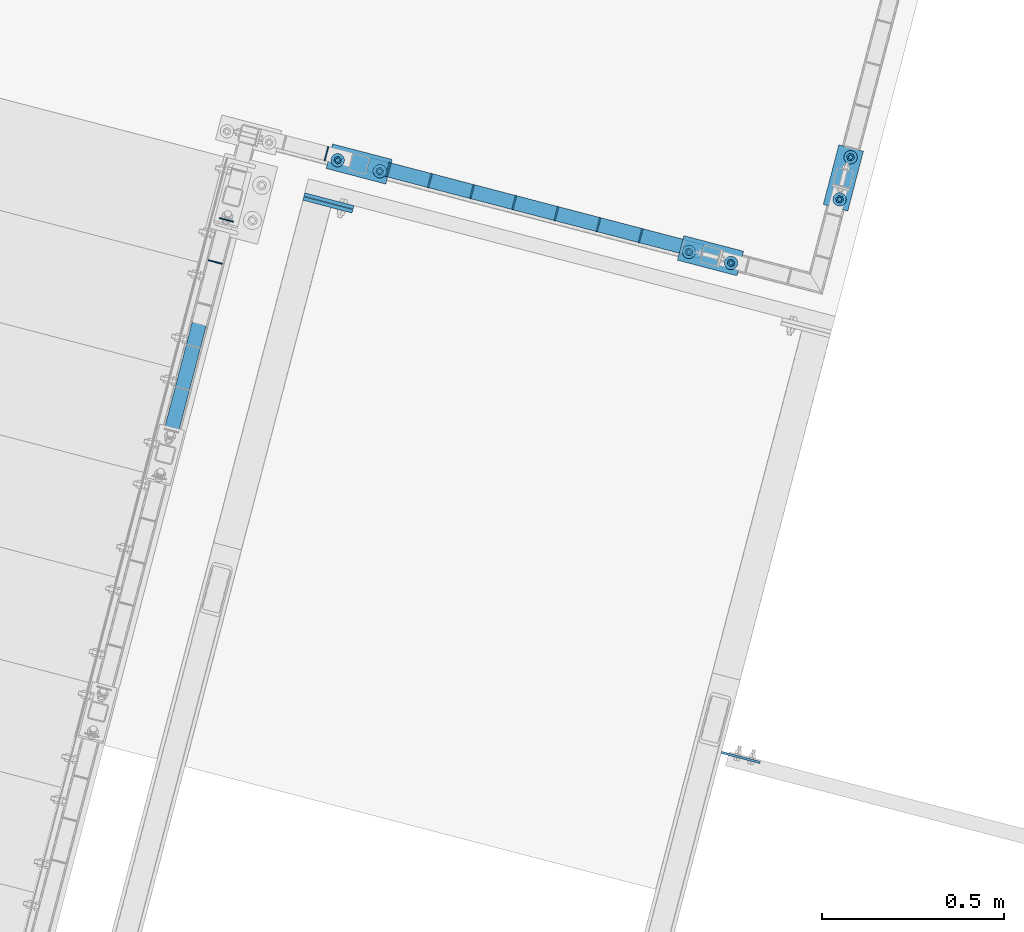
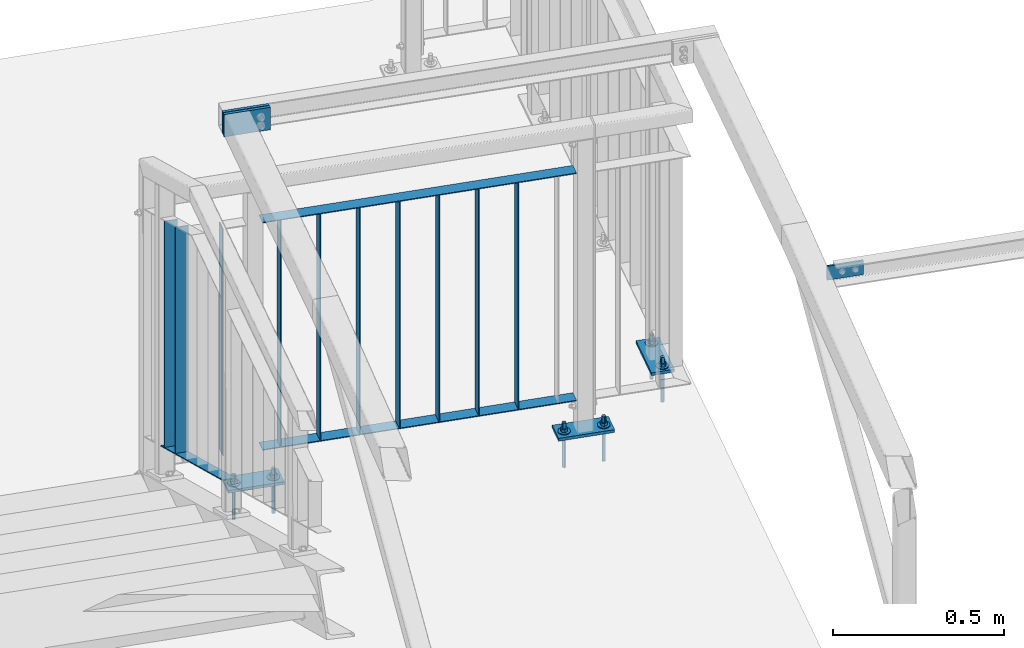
# One storey, part 95 of 169: 19 discrete accessories, 3 mechanical fasteners, 5 elements without a shape of their own.
"""IFC2X3 building model written with IfcOpenShell, lengths in millimetres."""

from ifc_helpers import new_model, si_unit, frame, frame_2d, origin_with_axes, origin_2d_with_axis, place, context, subcontext, project, spatial, polyline, circle_curve, parameter, trimmed, segment, composite_curve, rectangle, circle, outline, extrude, boolean, clip, halfspace, source, transform, mapped, material, type_object, element, aggregate, save


model = new_model("IFC2X3")

# Units and contexts
model_context = context("Model", 3, precision=1e-05, world=origin_with_axes())
body_context = subcontext(model_context, "Body", "Model", "MODEL_VIEW")
ifc_project = project(units=[si_unit("LENGTHUNIT", "METRE", prefix="MILLI"), si_unit("AREAUNIT", "SQUARE_METRE"), si_unit("VOLUMEUNIT", "CUBIC_METRE"), si_unit("MASSUNIT", "GRAM", prefix="KILO"), si_unit("TIMEUNIT", "SECOND"), si_unit("PLANEANGLEUNIT", "RADIAN"), si_unit("SOLIDANGLEUNIT", "STERADIAN"), si_unit("THERMODYNAMICTEMPERATUREUNIT", "DEGREE_CELSIUS"), si_unit("LUMINOUSINTENSITYUNIT", "LUMEN")], contexts=[model_context])

# Site, building, storey
site_placement = place(None, origin_with_axes())
site = spatial("IfcSite", under=ifc_project, at=site_placement, Name="Undefined", CompositionType="ELEMENT")
building_placement = place(site_placement, origin_with_axes())
building = spatial("IfcBuilding", under=site, at=building_placement, Name="Undefined", CompositionType="ELEMENT")
storey_placement = place(building_placement, origin_with_axes())
storey = spatial("IfcBuildingStorey", under=building, at=storey_placement, Name="Undefined", CompositionType="ELEMENT", Elevation=0.0)

# Assembly, discrete accessories
assembly_1_placement = place(storey_placement, origin_with_axes())
assembly_1 = element("IfcElementAssembly", 1, at=assembly_1_placement, inside=storey, Name="Steel Assembly", AssemblyPlace="NOTDEFINED", PredefinedType="RIGID_FRAME")
ifc_material_1 = material(Name="STEEL/S235")
discrete_accessory_type_1 = type_object("IfcDiscreteAccessoryType", Name="BLACHA")
discrete_accessory_1_placement = place(assembly_1_placement, frame((-8320.9615768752, 20890.1371942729, 12570.4183764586), z_axis=(0.0, 0.0, 1.0), x_axis=(-0.252628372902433, -0.967563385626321, 0.0)))
discrete_accessory_1 = element("IfcDiscreteAccessory", 2, at=discrete_accessory_1_placement, type_object=discrete_accessory_type_1, material=ifc_material_1, Name="BLACHA", ObjectType="BL10*170", context=body_context, shape_type="SweptSolid", body=[
    extrude(outline(polyline([(70.0000000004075, -84.9999999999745), (-5.82076609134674e-11, -84.99999999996), (5.82076609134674e-11, 84.99999999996), (70.0000000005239, 84.9999999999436), (70.0000000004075, -84.9999999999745)])), frame((-1.81898926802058e-12, -1.18000176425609e-16, -5.00000000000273), z_axis=(0.0, 0.0, 1.0), x_axis=(1.0, 0.0, 0.0)), (0.0, 0.0, 1.0), 10.0),
])
discrete_accessory_2_placement = place(assembly_1_placement, frame((-7030.04737522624, 20826.9665998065, 12570.4183763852), z_axis=(0.0, 0.0, 1.0), x_axis=(0.967563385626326, -0.252628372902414, 0.0)))
discrete_accessory_2 = element("IfcDiscreteAccessory", 3, at=discrete_accessory_2_placement, type_object=discrete_accessory_type_1, material=ifc_material_1, Name="BLACHA", ObjectType="BL10*170", context=body_context, shape_type="SweptSolid", body=[
    extrude(outline(polyline([(-5.82076609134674e-11, -84.99999999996), (5.82076609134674e-11, 84.99999999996), (70.0000000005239, 84.9999999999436), (70.0000000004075, -84.9999999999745), (-5.82076609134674e-11, -84.99999999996)])), frame((-1.81898926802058e-12, -1.18000176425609e-16, -5.00000000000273), z_axis=(0.0, 0.0, 1.0), x_axis=(1.0, 0.0, 0.0)), (0.0, 0.0, 1.0), 10.0),
])
discrete_accessory_3_placement = place(assembly_1_placement, frame((-7353.39819124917, 20637.5088213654, 12570.4183764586), z_axis=(0.0, 0.0, 1.0), x_axis=(-0.252628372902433, -0.967563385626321, 0.0)))
discrete_accessory_3 = element("IfcDiscreteAccessory", 4, at=discrete_accessory_3_placement, type_object=discrete_accessory_type_1, material=ifc_material_1, Name="BLACHA", ObjectType="BL10*170", context=body_context, shape_type="SweptSolid", body=[
    extrude(outline(polyline([(70.0000000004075, -84.9999999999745), (-5.82076609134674e-11, -84.99999999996), (5.82076609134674e-11, 84.99999999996), (70.0000000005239, 84.9999999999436), (70.0000000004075, -84.9999999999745)])), frame((-1.81898926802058e-12, -1.18000176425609e-16, -5.00000000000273), z_axis=(0.0, 0.0, 1.0), x_axis=(1.0, 0.0, 0.0)), (0.0, 0.0, 1.0), 10.0),
])

# Assembly, discrete accessory
assembly_2_placement = place(storey_placement, origin_with_axes())
assembly_2 = element("IfcElementAssembly", 5, at=assembly_2_placement, inside=storey, Name="Steel Assembly", AssemblyPlace="NOTDEFINED", PredefinedType="RIGID_FRAME")
ifc_material_2 = material(Name="STEEL/S355")
discrete_accessory_4_placement = place(assembly_2_placement, frame((-7278.67406887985, 19221.5871407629, 13970.4856092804), z_axis=(-0.252628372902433, -0.967563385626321, 0.0), x_axis=(-2.54700353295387e-10, 0.0, -1.0)))
discrete_accessory_4 = element("IfcDiscreteAccessory", 6, at=discrete_accessory_4_placement, type_object=discrete_accessory_type_1, material=ifc_material_2, Name="BLACHA", ObjectType="BL110X6", context=body_context, shape_type="SweptSolid", body=[
    extrude(outline(polyline([(50.00000000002, -54.9999999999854), (2.00088834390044e-11, -54.9999999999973), (-2.00088834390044e-11, 54.9999999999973), (49.9999999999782, 55.0000000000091), (50.00000000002, -54.9999999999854)])), frame((4.06575814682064e-20, 9.09383216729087e-13, -3.0), z_axis=(0.0, 0.0, 1.0), x_axis=(1.0, 0.0, 0.0)), (0.0, 0.0, 1.0), 6.0),
])
aggregate(assembly_2, [discrete_accessory_4])

assembly_3_placement = place(storey_placement, origin_with_axes())
assembly_3 = element("IfcElementAssembly", 7, at=assembly_3_placement, inside=storey, Name="Steel Assembly", AssemblyPlace="NOTDEFINED", PredefinedType="RIGID_FRAME")
discrete_accessory_5_placement = place(assembly_3_placement, frame((-8416.03372334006, 20743.7137753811, 13990.4176077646), z_axis=(-0.252628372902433, -0.967563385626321, 0.0), x_axis=(-2.54700353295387e-10, 0.0, -1.0)))
discrete_accessory_5 = element("IfcDiscreteAccessory", 8, at=discrete_accessory_5_placement, type_object=discrete_accessory_type_1, material=ifc_material_1, Name="BLACHA", ObjectType="BL10*140", context=body_context, shape_type="SweptSolid", body=[
    extrude(outline(polyline([(79.9999999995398, -70.00000000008), (-1.4915713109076e-10, -69.9999999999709), (1.4915713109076e-10, 69.9999999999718), (79.9999999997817, 69.999999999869), (79.9999999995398, -70.00000000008)])), frame((-1.81898926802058e-12, -1.18000176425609e-16, -5.00000000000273), z_axis=(0.0, 0.0, 1.0), x_axis=(1.0, 0.0, 0.0)), (0.0, 0.0, 1.0), 10.0),
])
aggregate(assembly_3, [discrete_accessory_5])

assembly_4_placement = place(storey_placement, origin_with_axes())
assembly_4 = element("IfcElementAssembly", 9, at=assembly_4_placement, inside=storey, Name="Steel Assembly", AssemblyPlace="NOTDEFINED", PredefinedType="RIGID_FRAME")
discrete_accessory_6_placement = place(assembly_4_placement, frame((-8413.25481123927, 20754.3569726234, 13990.4176077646), z_axis=(-0.252628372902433, -0.967563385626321, 0.0), x_axis=(-2.54700353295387e-10, 0.0, -1.0)))
discrete_accessory_6 = element("IfcDiscreteAccessory", 10, at=discrete_accessory_6_placement, type_object=discrete_accessory_type_1, material=ifc_material_1, Name="BLACHA", ObjectType="BL10*140", context=body_context, shape_type="SweptSolid", body=[
    extrude(outline(polyline([(79.9999999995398, -70.00000000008), (-1.4915713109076e-10, -69.9999999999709), (1.4915713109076e-10, 69.9999999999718), (79.9999999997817, 69.999999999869), (79.9999999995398, -70.00000000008)])), frame((-1.81898926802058e-12, -1.18000176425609e-16, -5.00000000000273), z_axis=(0.0, 0.0, 1.0), x_axis=(1.0, 0.0, 0.0)), (0.0, 0.0, 1.0), 10.0),
])
aggregate(assembly_4, [discrete_accessory_6])

# Discrete accessory
discrete_accessory_type_2 = type_object("IfcDiscreteAccessoryType", Name="PORĘCZ")
discrete_accessory_7_placement = place(assembly_1_placement, frame((-8419.97400294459, 20884.9881362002, 13640.4183763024), z_axis=(0.967563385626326, -0.252628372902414, 0.0), x_axis=(-2.54700353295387e-10, 0.0, -1.0)))
discrete_accessory_7 = element("IfcDiscreteAccessory", 11, at=discrete_accessory_7_placement, type_object=discrete_accessory_type_2, material=ifc_material_1, Name="PORĘCZ", ObjectType="BL40*3", context=body_context, shape_type="Clipping", body=[
    clip(clip(clip(extrude(outline(polyline([(953.5, -20.0000000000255), (146.5, -20.0000000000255), (146.5, 20.0000000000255), (953.5, 20.0000000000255), (953.5, -20.0000000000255)])), frame((1.81898940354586e-12, -1.77635442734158e-15, -1.50000000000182), z_axis=(0.0, 0.0, 1.0), x_axis=(1.0, 0.0, 0.0)), (0.0, 0.0, 1.0), 3.0), halfspace(frame((146.5, 1000.00000000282, -1.78988557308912e-09), z_axis=(1.0, 0.0, 0.0), x_axis=(-2.54700353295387e-10, 0.0, -1.0)), True)), halfspace(frame((24.9999999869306, 1000.00000000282, -1.78988557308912e-09), z_axis=(1.0, 0.0, 0.0), x_axis=(-2.54700353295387e-10, 0.0, -1.0)), True)), halfspace(frame((953.5, 999.999999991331, -2.08819983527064e-09), z_axis=(-1.0, -3.46944695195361e-18, -1.38777878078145e-17), x_axis=(0.0, 0.0, 1.0)), True)),
])

discrete_accessory_8_placement = place(assembly_1_placement, frame((-8251.13419214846, 20840.904485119, 13640.4183763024), z_axis=(0.967563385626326, -0.252628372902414, 0.0), x_axis=(-2.54700353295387e-10, 0.0, -1.0)))
discrete_accessory_8 = element("IfcDiscreteAccessory", 12, at=discrete_accessory_8_placement, type_object=discrete_accessory_type_2, material=ifc_material_1, Name="PORĘCZ", ObjectType="BL40*3", context=body_context, shape_type="Clipping", body=[
    clip(clip(clip(extrude(outline(polyline([(953.5, -20.0000000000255), (146.5, -20.0000000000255), (146.5, 20.0000000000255), (953.5, 20.0000000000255), (953.5, -20.0000000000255)])), frame((1.81898940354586e-12, -1.77635442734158e-15, -1.50000000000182), z_axis=(0.0, 0.0, 1.0), x_axis=(1.0, 0.0, 0.0)), (0.0, 0.0, 1.0), 3.0), halfspace(frame((146.5, 1000.00000000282, -1.78988557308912e-09), z_axis=(1.0, 0.0, 0.0), x_axis=(-2.54700353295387e-10, 0.0, -1.0)), True)), halfspace(frame((24.9999999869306, 1000.00000000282, -1.78988557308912e-09), z_axis=(1.0, 0.0, 0.0), x_axis=(-2.54700353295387e-10, 0.0, -1.0)), True)), halfspace(frame((953.5, 999.999999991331, -2.08819983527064e-09), z_axis=(-1.0, -3.46944695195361e-18, -1.38777878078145e-17), x_axis=(0.0, 0.0, 1.0)), True)),
])

discrete_accessory_9_placement = place(assembly_1_placement, frame((-8135.02658587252, 20810.5890803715, 13640.4183763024), z_axis=(0.967563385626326, -0.252628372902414, 0.0), x_axis=(-2.54700353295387e-10, 0.0, -1.0)))
discrete_accessory_9 = element("IfcDiscreteAccessory", 13, at=discrete_accessory_9_placement, type_object=discrete_accessory_type_2, material=ifc_material_1, Name="PORĘCZ", ObjectType="BL40*3", context=body_context, shape_type="Clipping", body=[
    clip(clip(clip(extrude(outline(polyline([(953.5, -20.0000000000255), (146.5, -20.0000000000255), (146.5, 20.0000000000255), (953.5, 20.0000000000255), (953.5, -20.0000000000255)])), frame((1.81898940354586e-12, -1.77635442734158e-15, -1.50000000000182), z_axis=(0.0, 0.0, 1.0), x_axis=(1.0, 0.0, 0.0)), (0.0, 0.0, 1.0), 3.0), halfspace(frame((146.5, 1000.00000000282, -1.78988557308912e-09), z_axis=(1.0, 0.0, 0.0), x_axis=(-2.54700353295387e-10, 0.0, -1.0)), True)), halfspace(frame((24.9999999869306, 1000.00000000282, -1.78988557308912e-09), z_axis=(1.0, 0.0, 0.0), x_axis=(-2.54700353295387e-10, 0.0, -1.0)), True)), halfspace(frame((953.5, 999.999999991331, -2.08819983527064e-09), z_axis=(-1.0, -3.46944695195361e-18, -1.38777878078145e-17), x_axis=(0.0, 0.0, 1.0)), True)),
])

discrete_accessory_10_placement = place(assembly_1_placement, frame((-8018.91897959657, 20780.2736756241, 13640.4183763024), z_axis=(0.967563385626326, -0.252628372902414, 0.0), x_axis=(-2.54700353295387e-10, 0.0, -1.0)))
discrete_accessory_10 = element("IfcDiscreteAccessory", 14, at=discrete_accessory_10_placement, type_object=discrete_accessory_type_2, material=ifc_material_1, Name="PORĘCZ", ObjectType="BL40*3", context=body_context, shape_type="Clipping", body=[
    clip(clip(clip(extrude(outline(polyline([(953.5, -20.0000000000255), (146.5, -20.0000000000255), (146.5, 20.0000000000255), (953.5, 20.0000000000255), (953.5, -20.0000000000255)])), frame((1.81898940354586e-12, -1.77635442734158e-15, -1.50000000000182), z_axis=(0.0, 0.0, 1.0), x_axis=(1.0, 0.0, 0.0)), (0.0, 0.0, 1.0), 3.0), halfspace(frame((146.5, 1000.00000000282, -1.78988557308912e-09), z_axis=(1.0, 0.0, 0.0), x_axis=(-2.54700353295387e-10, 0.0, -1.0)), True)), halfspace(frame((24.9999999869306, 1000.00000000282, -1.78988557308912e-09), z_axis=(1.0, 0.0, 0.0), x_axis=(-2.54700353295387e-10, 0.0, -1.0)), True)), halfspace(frame((953.5, 999.999999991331, -2.08819983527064e-09), z_axis=(-1.0, -3.46944695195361e-18, -1.38777878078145e-17), x_axis=(0.0, 0.0, 1.0)), True)),
])

discrete_accessory_11_placement = place(assembly_1_placement, frame((-7970.05702862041, 20767.5159427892, 13495.4183763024), z_axis=(0.0, 0.0, 1.0), x_axis=(0.967563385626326, -0.252628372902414, 0.0)))
discrete_accessory_11 = element("IfcDiscreteAccessory", 15, at=discrete_accessory_11_placement, type_object=discrete_accessory_type_2, material=ifc_material_1, Name="PORĘCZ", ObjectType="BL40*3", context=body_context, shape_type="CSG", body=[
    boolean("DIFFERENCE", boolean("DIFFERENCE", extrude(outline(polyline([(-345.499999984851, -20.0000000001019), (-345.499999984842, 19.9999999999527), (604.500000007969, 20.0000000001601), (604.50000000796, -19.9999999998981), (-345.499999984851, -20.0000000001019)])), frame((1.81898940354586e-12, -1.77635442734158e-15, -1.50000000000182), z_axis=(0.0, 0.0, 1.0), x_axis=(1.0, 0.0, 0.0)), (0.0, 0.0, 1.0), 3.0), extrude(rectangle(XDim=51.0, YDim=51.0, at=origin_2d_with_axis()), frame((630.000000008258, 6.38465280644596e-09, 139.999999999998), z_axis=(-2.54700353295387e-10, 0.0, -1.0), x_axis=(-1.0, -3.46944695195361e-18, -1.38777878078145e-17)), (0.0, 0.0, 1.0), 280.0)), halfspace(frame((-345.499999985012, 1000.00000000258, -1.81898940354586e-12), z_axis=(1.0, 0.0, 0.0), x_axis=(-2.54700353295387e-10, 0.0, -1.0)), True)),
])

discrete_accessory_12_placement = place(assembly_1_placement, frame((-7902.81137332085, 20749.9582708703, 13640.4183763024), z_axis=(0.967563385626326, -0.252628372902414, 0.0), x_axis=(-2.54700353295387e-10, 0.0, -1.0)))
discrete_accessory_12 = element("IfcDiscreteAccessory", 16, at=discrete_accessory_12_placement, type_object=discrete_accessory_type_2, material=ifc_material_1, Name="PORĘCZ", ObjectType="BL40*3", context=body_context, shape_type="Clipping", body=[
    clip(clip(clip(extrude(outline(polyline([(953.5, -20.0000000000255), (146.5, -20.0000000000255), (146.5, 20.0000000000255), (953.5, 20.0000000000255), (953.5, -20.0000000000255)])), frame((1.81898940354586e-12, -1.77635442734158e-15, -1.50000000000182), z_axis=(0.0, 0.0, 1.0), x_axis=(1.0, 0.0, 0.0)), (0.0, 0.0, 1.0), 3.0), halfspace(frame((146.5, 1000.00000000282, -1.78988557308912e-09), z_axis=(1.0, 0.0, 0.0), x_axis=(-2.54700353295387e-10, 0.0, -1.0)), True)), halfspace(frame((24.9999999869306, 1000.00000000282, -1.78988557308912e-09), z_axis=(1.0, 0.0, 0.0), x_axis=(-2.54700353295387e-10, 0.0, -1.0)), True)), halfspace(frame((953.5, 999.999999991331, -2.08819983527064e-09), z_axis=(-1.0, -3.46944695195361e-18, -1.38777878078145e-17), x_axis=(0.0, 0.0, 1.0)), True)),
])

discrete_accessory_13_placement = place(assembly_1_placement, frame((-7786.70376704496, 20719.642866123, 13640.4183763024), z_axis=(0.967563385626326, -0.252628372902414, 0.0), x_axis=(-2.54700353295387e-10, 0.0, -1.0)))
discrete_accessory_13 = element("IfcDiscreteAccessory", 17, at=discrete_accessory_13_placement, type_object=discrete_accessory_type_2, material=ifc_material_1, Name="PORĘCZ", ObjectType="BL40*3", context=body_context, shape_type="Clipping", body=[
    clip(clip(clip(extrude(outline(polyline([(953.5, -20.0000000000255), (146.5, -20.0000000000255), (146.5, 20.0000000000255), (953.5, 20.0000000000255), (953.5, -20.0000000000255)])), frame((1.81898940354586e-12, -1.77635442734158e-15, -1.50000000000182), z_axis=(0.0, 0.0, 1.0), x_axis=(1.0, 0.0, 0.0)), (0.0, 0.0, 1.0), 3.0), halfspace(frame((146.5, 1000.00000000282, -1.78988557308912e-09), z_axis=(1.0, 0.0, 0.0), x_axis=(-2.54700353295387e-10, 0.0, -1.0)), True)), halfspace(frame((24.9999999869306, 1000.00000000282, -1.78988557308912e-09), z_axis=(1.0, 0.0, 0.0), x_axis=(-2.54700353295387e-10, 0.0, -1.0)), True)), halfspace(frame((953.5, 999.999999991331, -2.08819983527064e-09), z_axis=(-1.0, -3.46944695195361e-18, -1.38777878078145e-17), x_axis=(0.0, 0.0, 1.0)), True)),
])

discrete_accessory_14_placement = place(assembly_1_placement, frame((-7670.59616076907, 20689.3274613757, 13640.4183763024), z_axis=(0.967563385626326, -0.252628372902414, 0.0), x_axis=(-2.54700353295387e-10, 0.0, -1.0)))
discrete_accessory_14 = element("IfcDiscreteAccessory", 18, at=discrete_accessory_14_placement, type_object=discrete_accessory_type_2, material=ifc_material_1, Name="PORĘCZ", ObjectType="BL40*3", context=body_context, shape_type="Clipping", body=[
    clip(clip(clip(extrude(outline(polyline([(953.5, -20.0000000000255), (146.5, -20.0000000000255), (146.5, 20.0000000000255), (953.5, 20.0000000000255), (953.5, -20.0000000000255)])), frame((1.81898940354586e-12, -1.77635442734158e-15, -1.50000000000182), z_axis=(0.0, 0.0, 1.0), x_axis=(1.0, 0.0, 0.0)), (0.0, 0.0, 1.0), 3.0), halfspace(frame((146.5, 1000.00000000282, -1.78988557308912e-09), z_axis=(1.0, 0.0, 0.0), x_axis=(-2.54700353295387e-10, 0.0, -1.0)), True)), halfspace(frame((24.9999999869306, 1000.00000000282, -1.78988557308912e-09), z_axis=(1.0, 0.0, 0.0), x_axis=(-2.54700353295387e-10, 0.0, -1.0)), True)), halfspace(frame((953.5, 999.999999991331, -2.08819983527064e-09), z_axis=(-1.0, -3.46944695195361e-18, -1.38777878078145e-17), x_axis=(0.0, 0.0, 1.0)), True)),
])

discrete_accessory_15_placement = place(assembly_1_placement, frame((-7554.48855449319, 20659.0120566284, 13640.4183763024), z_axis=(0.967563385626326, -0.252628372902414, 0.0), x_axis=(-2.54700353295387e-10, 0.0, -1.0)))
discrete_accessory_15 = element("IfcDiscreteAccessory", 19, at=discrete_accessory_15_placement, type_object=discrete_accessory_type_2, material=ifc_material_1, Name="PORĘCZ", ObjectType="BL40*3", context=body_context, shape_type="Clipping", body=[
    clip(clip(clip(extrude(outline(polyline([(953.5, -20.0000000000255), (146.5, -20.0000000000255), (146.5, 20.0000000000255), (953.5, 20.0000000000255), (953.5, -20.0000000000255)])), frame((1.81898940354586e-12, -1.77635442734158e-15, -1.50000000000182), z_axis=(0.0, 0.0, 1.0), x_axis=(1.0, 0.0, 0.0)), (0.0, 0.0, 1.0), 3.0), halfspace(frame((146.5, 1000.00000000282, -1.78988557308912e-09), z_axis=(1.0, 0.0, 0.0), x_axis=(-2.54700353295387e-10, 0.0, -1.0)), True)), halfspace(frame((24.9999999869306, 1000.00000000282, -1.78988557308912e-09), z_axis=(1.0, 0.0, 0.0), x_axis=(-2.54700353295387e-10, 0.0, -1.0)), True)), halfspace(frame((953.5, 999.999999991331, -2.08819983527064e-09), z_axis=(-1.0, -3.46944695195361e-18, -1.38777878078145e-17), x_axis=(0.0, 0.0, 1.0)), True)),
])

discrete_accessory_16_placement = place(assembly_1_placement, frame((-7970.05702863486, 20767.5159427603, 12685.4183763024), z_axis=(0.0, 0.0, 1.0), x_axis=(0.967563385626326, -0.252628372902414, 0.0)))
discrete_accessory_16 = element("IfcDiscreteAccessory", 20, at=discrete_accessory_16_placement, type_object=discrete_accessory_type_2, material=ifc_material_1, Name="PORĘCZ", ObjectType="BL40*3", context=body_context, shape_type="CSG", body=[
    boolean("DIFFERENCE", boolean("DIFFERENCE", extrude(outline(polyline([(-345.499999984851, -20.0000000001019), (-345.499999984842, 19.9999999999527), (604.500000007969, 20.0000000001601), (604.50000000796, -19.9999999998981), (-345.499999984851, -20.0000000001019)])), frame((1.81898940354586e-12, -1.77635442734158e-15, -1.50000000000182), z_axis=(0.0, 0.0, 1.0), x_axis=(1.0, 0.0, 0.0)), (0.0, 0.0, 1.0), 3.0), extrude(rectangle(XDim=51.0, YDim=51.0, at=origin_2d_with_axis()), frame((630.000000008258, 6.38465280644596e-09, 139.999999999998), z_axis=(-2.54700353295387e-10, 0.0, -1.0), x_axis=(-1.0, -3.46944695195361e-18, -1.38777878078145e-17)), (0.0, 0.0, 1.0), 280.0)), halfspace(frame((-345.499999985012, 1000.00000000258, -1.81898940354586e-12), z_axis=(1.0, 0.0, 0.0), x_axis=(-2.54700353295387e-10, 0.0, -1.0)), True)),
])

# Assembly, discrete accessories
assembly_5_placement = place(storey_placement, origin_with_axes())
assembly_5 = element("IfcElementAssembly", 21, at=assembly_5_placement, inside=storey, Name="Steel Assembly", AssemblyPlace="NOTDEFINED", PredefinedType="RIGID_FRAME")
discrete_accessory_17_placement = place(assembly_5_placement, frame((-8725.95450736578, 20586.2353031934, 13927.6347790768), z_axis=(-0.252628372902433, -0.967563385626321, 0.0), x_axis=(-2.54700353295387e-10, 0.0, -1.0)))
discrete_accessory_17 = element("IfcDiscreteAccessory", 22, at=discrete_accessory_17_placement, type_object=discrete_accessory_type_2, material=ifc_material_1, Name="PORĘCZ", ObjectType="BL40*3", context=body_context, shape_type="Clipping", body=[
    clip(clip(clip(extrude(outline(polyline([(953.326238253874, -19.9999999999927), (146.673761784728, -19.9999999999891), (146.67376178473, 19.9999999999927), (953.326238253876, 19.9999999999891), (953.326238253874, -19.9999999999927)])), frame((1.81898940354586e-12, -1.77635442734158e-15, -1.50000000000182), z_axis=(0.0, 0.0, 1.0), x_axis=(1.0, 0.0, 0.0)), (0.0, 0.0, 1.0), 3.0), halfspace(frame((146.34427734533, 999.999999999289, 0.66552116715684), z_axis=(0.89618489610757, -8.07050632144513e-16, 0.443680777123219), x_axis=(0.443680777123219, -6.25441316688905e-11, -0.89618489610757)), True)), halfspace(frame((146.34427734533, 999.999999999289, 0.66552116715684), z_axis=(0.89618489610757, -8.07050632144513e-16, 0.443680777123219), x_axis=(0.443680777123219, -6.25441316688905e-11, -0.89618489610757)), True)), halfspace(frame((953.655722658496, 999.999999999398, -0.665521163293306), z_axis=(-0.89618489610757, 8.07050632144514e-16, -0.443680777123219), x_axis=(-0.443680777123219, 6.25441316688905e-11, 0.89618489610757)), True)),
])
discrete_accessory_18_placement = place(assembly_5_placement, frame((-8695.63910261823, 20702.3429094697, 13868.2255059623), z_axis=(-0.252628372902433, -0.967563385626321, 0.0), x_axis=(-2.54700353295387e-10, 0.0, -1.0)))
discrete_accessory_18 = element("IfcDiscreteAccessory", 23, at=discrete_accessory_18_placement, type_object=discrete_accessory_type_2, material=ifc_material_1, Name="PORĘCZ", ObjectType="BL40*3", context=body_context, shape_type="Clipping", body=[
    clip(clip(clip(extrude(outline(polyline([(953.326238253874, -19.9999999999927), (146.673761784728, -19.9999999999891), (146.67376178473, 19.9999999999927), (953.326238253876, 19.9999999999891), (953.326238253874, -19.9999999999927)])), frame((1.81898940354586e-12, -1.77635442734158e-15, -1.50000000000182), z_axis=(0.0, 0.0, 1.0), x_axis=(1.0, 0.0, 0.0)), (0.0, 0.0, 1.0), 3.0), halfspace(frame((146.34427734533, 999.999999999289, 0.66552116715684), z_axis=(0.89618489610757, -8.07050632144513e-16, 0.443680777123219), x_axis=(0.443680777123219, -6.25441316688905e-11, -0.89618489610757)), True)), halfspace(frame((146.34427734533, 999.999999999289, 0.66552116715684), z_axis=(0.89618489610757, -8.07050632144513e-16, 0.443680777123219), x_axis=(0.443680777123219, -6.25441316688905e-11, -0.89618489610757)), True)), halfspace(frame((953.655722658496, 999.999999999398, -0.665521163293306), z_axis=(-0.89618489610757, 8.07050632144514e-16, -0.443680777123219), x_axis=(-0.443680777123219, 6.25441316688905e-11, 0.89618489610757)), True)),
])
discrete_accessory_19_placement = place(assembly_5_placement, frame((-8864.05764403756, 20057.3020842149, 13243.2762906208), z_axis=(0.967563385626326, -0.252628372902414, 0.0), x_axis=(0.226401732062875, 0.867115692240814, -0.443680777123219)))
discrete_accessory_19 = element("IfcDiscreteAccessory", 24, at=discrete_accessory_19_placement, type_object=discrete_accessory_type_2, material=ifc_material_1, Name="PORĘCZ", ObjectType="BL40*3", context=body_context, shape_type="CSG", body=[
    boolean("DIFFERENCE", boolean("DIFFERENCE", boolean("DIFFERENCE", boolean("DIFFERENCE", extrude(rectangle(XDim=3.0, YDim=40.0, at=origin_2d_with_axis()), frame((808.457163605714, -3.63797880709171e-12, 8.88739387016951e-15), z_axis=(-1.0, -3.46944695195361e-18, -1.38777878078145e-17), x_axis=(1.73472347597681e-18, -1.0, 0.0)), (0.0, 0.0, 1.0), 798.63), extrude(rectangle(XDim=51.0, YDim=51.0, at=origin_2d_with_axis()), frame((-62.1153087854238, 125.465885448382, -3.44399542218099e-09), z_axis=(0.44368077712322, -0.89618489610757, 2.77484007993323e-11), x_axis=(0.896184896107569, 0.443680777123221, 5.60551815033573e-11)), (0.0, 0.0, 1.0), 280.0)), extrude(rectangle(XDim=51.0, YDim=51.0, at=origin_2d_with_axis()), frame((761.656317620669, 114.373866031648, 4.59358767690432e-08), z_axis=(0.44368077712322, -0.89618489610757, 2.77484007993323e-11), x_axis=(0.896184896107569, 0.443680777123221, 5.60551815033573e-11)), (0.0, 0.0, 1.0), 280.0)), halfspace(frame((795.87559720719, -11.0920194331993, 999.999999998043), z_axis=(-0.896184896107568, -0.443680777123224, -5.60462156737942e-11), x_axis=(0.44368077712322, -0.89618489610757, 2.77484007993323e-11)), True)), halfspace(frame((22.4046223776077, 11.0920194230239, 1000.00000000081), z_axis=(0.896184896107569, 0.443680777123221, 5.60551815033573e-11), x_axis=(-0.443680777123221, 0.896184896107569, -2.77505023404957e-11)), True)),
])
aggregate(assembly_5, [discrete_accessory_17, discrete_accessory_18, discrete_accessory_19])

# Mechanical fastener
ifc_material_3 = material(Name="Undefined")
discrete_accessory_type_3 = type_object("IfcDiscreteAccessoryType", Name="Bolt assembly")
shared_shape_1 = source(origin_with_axes(), body_context, "Body", "SweptSolid", [
    extrude(outline(composite_curve([segment(polyline([(-7.5, 8.5), (7.5, 8.5)]), True, "CONTINUOUS"), segment(trimmed(circle_curve(frame_2d((7.5, 0.0), x_axis=(0.0, 1.0)), 8.5), [parameter(0.0)], [parameter(3.14159265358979)], False, "PARAMETER"), True, "CONTINUOUS"), segment(polyline([(7.5, -8.5), (-7.5, -8.5)]), True, "CONTINUOUS"), segment(trimmed(circle_curve(frame_2d((-7.5, 0.0), x_axis=(0.0, -1.0)), 8.5), [parameter(0.0)], [parameter(3.14159265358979)], False, "PARAMETER"), True, "DISCONTINUOUS")], self_intersect=False)), frame((0.0, -10.0, 0.0), z_axis=(0.0, 1.0, 0.0), x_axis=(1.0, 0.0, 0.0)), (0.0, 0.0, 1.0), 10.1),
    extrude(outline(polyline([(5.80237031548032, 0.0), (2.90118515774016, 5.02500009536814), (-2.90118515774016, 5.02500009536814), (-5.80237031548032, 0.0), (-2.90118515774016, -5.02500009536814), (2.90118515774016, -5.02500009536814), (5.80237031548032, 0.0)])), frame((0.0, -126.0, 0.0), z_axis=(0.0, 1.0, 0.0), x_axis=(1.0, 0.0, 0.0)), (0.0, 0.0, 1.0), 116.0),
    extrude(circle(Radius=6.0, at=origin_2d_with_axis()), frame((0.0, -10.0, 0.0), z_axis=(0.0, 1.0, 0.0), x_axis=(1.0, 0.0, 0.0)), (0.0, 0.0, 1.0), 44.0),
    extrude(circle(Radius=18.5, at=origin_2d_with_axis()), frame((0.0, 0.0, 0.0), z_axis=(0.0, 1.0, 0.0), x_axis=(1.0, 0.0, 0.0)), (0.0, 0.0, 1.0), 3.0),
    extrude(outline(polyline([(10.96965511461, 0.0), (5.484827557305, 9.50000000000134), (-5.484827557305, 9.50000000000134), (-10.96965511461, 0.0), (-5.484827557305, -9.50000000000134), (5.484827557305, -9.50000000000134), (10.96965511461, 0.0)])), frame((0.0, 2.99999999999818, 0.0), z_axis=(0.0, 1.0, 0.0), x_axis=(1.0, 0.0, 0.0)), (0.0, 0.0, 1.0), 10.0),
])
mechanical_fastener_1_placement = place(assembly_1_placement, frame((-8334.85613738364, 20836.9212080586, 12575.4183764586), z_axis=(0.967563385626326, -0.252628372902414, 0.0), x_axis=(0.252628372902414, 0.967563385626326, 0.0)))
mechanical_fastener_1 = element("IfcMechanicalFastener", 25, at=mechanical_fastener_1_placement, type_object=discrete_accessory_type_3, material=ifc_material_3, Name="Bolt assembly", NominalDiameter=12.0, NominalLength=44.0, context=body_context, shape_type="MappedRepresentation", body=[
    mapped(shared_shape_1, transform((15.0000000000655, 0.0, -59.9999999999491))),
    mapped(shared_shape_1, transform((15.0000000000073, 0.0, 59.9999999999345))),
])

shared_shape_2 = source(origin_with_axes(), body_context, "Body", "SweptSolid", [
    extrude(outline(composite_curve([segment(polyline([(-7.5, 8.5), (7.5, 8.5)]), True, "CONTINUOUS"), segment(trimmed(circle_curve(frame_2d((7.5, 0.0), x_axis=(0.0, 1.0)), 8.5), [parameter(0.0)], [parameter(3.14159265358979)], False, "PARAMETER"), True, "CONTINUOUS"), segment(polyline([(7.5, -8.5), (-7.5, -8.5)]), True, "CONTINUOUS"), segment(trimmed(circle_curve(frame_2d((-7.5, 0.0), x_axis=(0.0, -1.0)), 8.5), [parameter(0.0)], [parameter(3.14159265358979)], False, "PARAMETER"), True, "DISCONTINUOUS")], self_intersect=False)), frame((0.0, -10.0, 0.0), z_axis=(0.0, 1.0, 0.0), x_axis=(1.0, 0.0, 0.0)), (0.0, 0.0, 1.0), 10.1),
    extrude(outline(polyline([(5.80237031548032, 0.0), (2.90118515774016, 5.02500009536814), (-2.90118515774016, 5.02500009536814), (-5.80237031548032, 0.0), (-2.90118515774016, -5.02500009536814), (2.90118515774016, -5.02500009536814), (5.80237031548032, 0.0)])), frame((0.0, -126.0, 0.0), z_axis=(0.0, 1.0, 0.0), x_axis=(1.0, 0.0, 0.0)), (0.0, 0.0, 1.0), 116.0),
    extrude(circle(Radius=6.0, at=origin_2d_with_axis()), frame((0.0, -10.0, 0.0), z_axis=(0.0, 1.0, 0.0), x_axis=(1.0, 0.0, 0.0)), (0.0, 0.0, 1.0), 44.0),
    extrude(circle(Radius=18.5, at=origin_2d_with_axis()), frame((0.0, 0.0, 0.0), z_axis=(0.0, 1.0, 0.0), x_axis=(1.0, 0.0, 0.0)), (0.0, 0.0, 1.0), 3.0),
    extrude(outline(polyline([(10.96965511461, 0.0), (5.484827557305, 9.50000000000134), (-5.484827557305, 9.50000000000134), (-10.96965511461, 0.0), (-5.484827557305, -9.50000000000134), (5.484827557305, -9.50000000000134), (10.96965511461, 0.0)])), frame((0.0, 2.99999999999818, 0.0), z_axis=(0.0, 1.0, 0.0), x_axis=(1.0, 0.0, 0.0)), (0.0, 0.0, 1.0), 10.0),
])
mechanical_fastener_2_placement = place(assembly_1_placement, frame((-6976.83138901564, 20813.072039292, 12575.4183763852), z_axis=(0.252628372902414, 0.967563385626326, 0.0), x_axis=(-0.967563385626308, 0.252628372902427, -1.72000000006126e-07)))
mechanical_fastener_2 = element("IfcMechanicalFastener", 26, at=mechanical_fastener_2_placement, type_object=discrete_accessory_type_3, material=ifc_material_3, Name="Bolt assembly", NominalDiameter=12.0, NominalLength=44.0, context=body_context, shape_type="MappedRepresentation", body=[
    mapped(shared_shape_2, transform((15.0000000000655, 0.0, -59.9999999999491))),
    mapped(shared_shape_2, transform((15.0000000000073, 0.0, 59.9999999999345))),
])

shared_shape_3 = source(origin_with_axes(), body_context, "Body", "SweptSolid", [
    extrude(outline(composite_curve([segment(polyline([(-7.5, 8.5), (7.5, 8.5)]), True, "CONTINUOUS"), segment(trimmed(circle_curve(frame_2d((7.5, 0.0), x_axis=(0.0, 1.0)), 8.5), [parameter(0.0)], [parameter(3.14159265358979)], False, "PARAMETER"), True, "CONTINUOUS"), segment(polyline([(7.5, -8.5), (-7.5, -8.5)]), True, "CONTINUOUS"), segment(trimmed(circle_curve(frame_2d((-7.5, 0.0), x_axis=(0.0, -1.0)), 8.5), [parameter(0.0)], [parameter(3.14159265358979)], False, "PARAMETER"), True, "DISCONTINUOUS")], self_intersect=False)), frame((0.0, -10.0, 0.0), z_axis=(0.0, 1.0, 0.0), x_axis=(1.0, 0.0, 0.0)), (0.0, 0.0, 1.0), 10.1),
    extrude(outline(polyline([(5.80237031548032, 0.0), (2.90118515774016, 5.02500009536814), (-2.90118515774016, 5.02500009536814), (-5.80237031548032, 0.0), (-2.90118515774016, -5.02500009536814), (2.90118515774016, -5.02500009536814), (5.80237031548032, 0.0)])), frame((0.0, -126.0, 0.0), z_axis=(0.0, 1.0, 0.0), x_axis=(1.0, 0.0, 0.0)), (0.0, 0.0, 1.0), 116.0),
    extrude(circle(Radius=6.0, at=origin_2d_with_axis()), frame((0.0, -10.0, 0.0), z_axis=(0.0, 1.0, 0.0), x_axis=(1.0, 0.0, 0.0)), (0.0, 0.0, 1.0), 44.0),
    extrude(circle(Radius=18.5, at=origin_2d_with_axis()), frame((0.0, 0.0, 0.0), z_axis=(0.0, 1.0, 0.0), x_axis=(1.0, 0.0, 0.0)), (0.0, 0.0, 1.0), 3.0),
    extrude(outline(polyline([(10.96965511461, 0.0), (5.484827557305, 9.50000000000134), (-5.484827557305, 9.50000000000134), (-10.96965511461, 0.0), (-5.484827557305, -9.50000000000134), (5.484827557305, -9.50000000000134), (10.96965511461, 0.0)])), frame((0.0, 2.99999999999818, 0.0), z_axis=(0.0, 1.0, 0.0), x_axis=(1.0, 0.0, 0.0)), (0.0, 0.0, 1.0), 10.0),
])
mechanical_fastener_3_placement = place(assembly_1_placement, frame((-7367.29275175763, 20584.2928351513, 12575.4183764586), z_axis=(0.967563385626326, -0.252628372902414, 0.0), x_axis=(0.252628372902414, 0.967563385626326, 0.0)))
mechanical_fastener_3 = element("IfcMechanicalFastener", 27, at=mechanical_fastener_3_placement, type_object=discrete_accessory_type_3, material=ifc_material_3, Name="Bolt assembly", NominalDiameter=12.0, NominalLength=44.0, context=body_context, shape_type="MappedRepresentation", body=[
    mapped(shared_shape_3, transform((15.0000000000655, 0.0, -59.9999999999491))),
    mapped(shared_shape_3, transform((15.0000000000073, 0.0, 59.9999999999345))),
])

aggregate(assembly_1, [discrete_accessory_7, discrete_accessory_8, discrete_accessory_9, discrete_accessory_10, mechanical_fastener_1, discrete_accessory_1, mechanical_fastener_2, discrete_accessory_2, mechanical_fastener_3, discrete_accessory_3, discrete_accessory_11, discrete_accessory_12, discrete_accessory_13, discrete_accessory_14, discrete_accessory_15, discrete_accessory_16])

save(model, "model.ifc")
